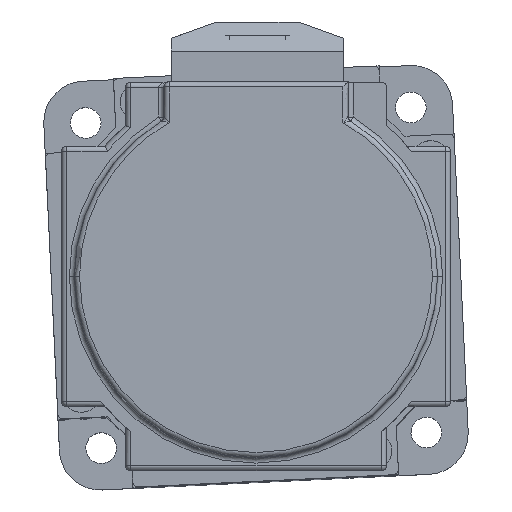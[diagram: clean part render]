
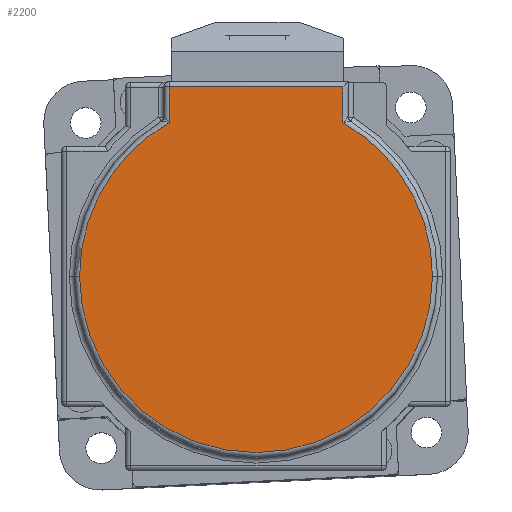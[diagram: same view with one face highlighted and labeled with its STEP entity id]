
A CAD part, top view. The second image highlights one B-rep face of the part: STEP entity #2200.
In plain terms, the highlighted planar face has unit normal (0, 0, 1).
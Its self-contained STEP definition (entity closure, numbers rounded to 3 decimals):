
#1516 = EDGE_CURVE ( 'NONE', #15671, #8292, #10860, .T. ) ;
#1998 = AXIS2_PLACEMENT_3D ( 'NONE', #40117, #2860, #24619 ) ;
#2200 = ADVANCED_FACE ( 'NONE', ( #20148 ), #18323, .T. ) ;
#2828 = CIRCLE ( 'NONE', #34928, 34.5 ) ;
#2860 = DIRECTION ( 'NONE',  ( 0., 0., 1. ) ) ;
#3584 = LINE ( 'NONE', #29636, #20087 ) ;
#6512 = B_SPLINE_CURVE_WITH_KNOTS ( 'NONE', 3,
 ( #22295, #37816, #25456, #6804 ),
 .UNSPECIFIED., .F., .F.,
 ( 4, 4 ),
 ( 0., 1. ),
 .UNSPECIFIED. ) ;
#6637 = CARTESIAN_POINT ( 'NONE',  ( 17., 31.165, 39.5 ) ) ;
#6804 = CARTESIAN_POINT ( 'NONE',  ( 17., 37., 39.5 ) ) ;
#6910 = EDGE_CURVE ( 'NONE', #23866, #10909, #27664, .T. ) ;
#7388 = DIRECTION ( 'NONE',  ( 0., -1., 0. ) ) ;
#7534 = CARTESIAN_POINT ( 'NONE',  ( 0., 0., 39.5 ) ) ;
#8283 = ORIENTED_EDGE ( 'NONE', *, *, #19921, .T. ) ;
#8292 = VERTEX_POINT ( 'NONE', #19016 ) ;
#9028 = CARTESIAN_POINT ( 'NONE',  ( -34.5, 0., 39.5 ) ) ;
#10629 = DIRECTION ( 'NONE',  ( 1., 0., 0. ) ) ;
#10860 = CIRCLE ( 'NONE', #18855, 34.5 ) ;
#10909 = VERTEX_POINT ( 'NONE', #23100 ) ;
#12030 = DIRECTION ( 'NONE',  ( 0., 0., 1. ) ) ;
#13369 = CARTESIAN_POINT ( 'NONE',  ( 0., 0., 39.5 ) ) ;
#13392 = AXIS2_PLACEMENT_3D ( 'NONE', #30713, #12030, #33830 ) ;
#13597 = CARTESIAN_POINT ( 'NONE',  ( -17., 38., 39.5 ) ) ;
#14042 = DIRECTION ( 'NONE',  ( -1., 0., 0. ) ) ;
#15671 = VERTEX_POINT ( 'NONE', #31789 ) ;
#15717 = EDGE_CURVE ( 'NONE', #8292, #20554, #38653, .T. ) ;
#16041 = ORIENTED_EDGE ( 'NONE', *, *, #31988, .T. ) ;
#16526 = DIRECTION ( 'NONE',  ( 1., 0., 0. ) ) ;
#17029 = VERTEX_POINT ( 'NONE', #19599 ) ;
#17487 = ORIENTED_EDGE ( 'NONE', *, *, #24193, .T. ) ;
#18323 = PLANE ( 'NONE',  #1998 ) ;
#18855 = AXIS2_PLACEMENT_3D ( 'NONE', #13369, #35181, #16526 ) ;
#19016 = CARTESIAN_POINT ( 'NONE',  ( 17., 30.021, 39.5 ) ) ;
#19422 = ORIENTED_EDGE ( 'NONE', *, *, #15717, .T. ) ;
#19599 = CARTESIAN_POINT ( 'NONE',  ( 17., 37., 39.5 ) ) ;
#19921 = EDGE_CURVE ( 'NONE', #26637, #15671, #2828, .T. ) ;
#20087 = VECTOR ( 'NONE', #14042, 1000. ) ;
#20148 = FACE_OUTER_BOUND ( 'NONE', #28461, .T. ) ;
#20554 = VERTEX_POINT ( 'NONE', #6637 ) ;
#22295 = CARTESIAN_POINT ( 'NONE',  ( 17., 31.165, 39.5 ) ) ;
#22804 = DIRECTION ( 'NONE',  ( 0., 1., 0. ) ) ;
#23100 = CARTESIAN_POINT ( 'NONE',  ( -17., 30.021, 39.5 ) ) ;
#23866 = VERTEX_POINT ( 'NONE', #26880 ) ;
#24193 = EDGE_CURVE ( 'NONE', #20554, #17029, #6512, .T. ) ;
#24619 = DIRECTION ( 'NONE',  ( 1., 0., 0. ) ) ;
#24805 = CIRCLE ( 'NONE', #13392, 34.5 ) ;
#25456 = CARTESIAN_POINT ( 'NONE',  ( 17., 35.055, 39.5 ) ) ;
#26637 = VERTEX_POINT ( 'NONE', #9028 ) ;
#26880 = CARTESIAN_POINT ( 'NONE',  ( -17., 37., 39.5 ) ) ;
#27664 = LINE ( 'NONE', #13597, #34929 ) ;
#27737 = ORIENTED_EDGE ( 'NONE', *, *, #6910, .T. ) ;
#28461 = EDGE_LOOP ( 'NONE', ( #16041, #27737, #37553, #8283, #30630, #19422, #17487 ) ) ;
#29319 = DIRECTION ( 'NONE',  ( 0., 0., 1. ) ) ;
#29636 = CARTESIAN_POINT ( 'NONE',  ( 0., 37., 39.5 ) ) ;
#30390 = VECTOR ( 'NONE', #22804, 1000. ) ;
#30630 = ORIENTED_EDGE ( 'NONE', *, *, #1516, .T. ) ;
#30713 = CARTESIAN_POINT ( 'NONE',  ( 0., 0., 39.5 ) ) ;
#31789 = CARTESIAN_POINT ( 'NONE',  ( 34.5, 0., 39.5 ) ) ;
#31988 = EDGE_CURVE ( 'NONE', #17029, #23866, #3584, .T. ) ;
#33830 = DIRECTION ( 'NONE',  ( 1., 0., 0. ) ) ;
#34928 = AXIS2_PLACEMENT_3D ( 'NONE', #7534, #29319, #10629 ) ;
#34929 = VECTOR ( 'NONE', #7388, 1000. ) ;
#35181 = DIRECTION ( 'NONE',  ( 0., 0., 1. ) ) ;
#36397 = EDGE_CURVE ( 'NONE', #10909, #26637, #24805, .T. ) ;
#37553 = ORIENTED_EDGE ( 'NONE', *, *, #36397, .T. ) ;
#37816 = CARTESIAN_POINT ( 'NONE',  ( 17., 33.11, 39.5 ) ) ;
#38316 = CARTESIAN_POINT ( 'NONE',  ( 17., 30.021, 39.5 ) ) ;
#38653 = LINE ( 'NONE', #38316, #30390 ) ;
#40117 = CARTESIAN_POINT ( 'NONE',  ( 0., 0., 39.5 ) ) ;
